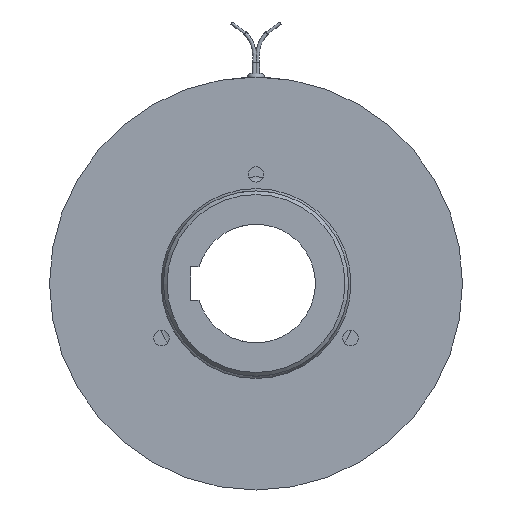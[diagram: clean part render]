
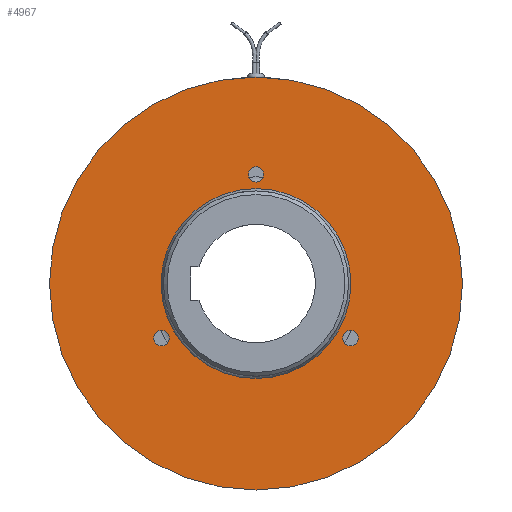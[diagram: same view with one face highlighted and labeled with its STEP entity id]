
A CAD part, left-side view. The second image highlights one B-rep face of the part: STEP entity #4967.
In plain terms, the highlighted planar face has unit normal (-1, 0, 0).
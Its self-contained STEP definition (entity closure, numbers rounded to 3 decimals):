
#72=FACE_BOUND('',#632,.T.);
#73=FACE_BOUND('',#633,.T.);
#74=FACE_BOUND('',#634,.T.);
#75=FACE_BOUND('',#635,.T.);
#170=PLANE('',#5530);
#369=FACE_OUTER_BOUND('',#631,.T.);
#631=EDGE_LOOP('',(#3648,#3649,#3650));
#632=EDGE_LOOP('',(#3651));
#633=EDGE_LOOP('',(#3652));
#634=EDGE_LOOP('',(#3653));
#635=EDGE_LOOP('',(#3654,#3655));
#858=CIRCLE('',#5157,87.);
#859=CIRCLE('',#5158,87.);
#1129=CIRCLE('',#5531,87.);
#1130=CIRCLE('',#5532,3.25);
#1131=CIRCLE('',#5533,3.25);
#1132=CIRCLE('',#5534,3.25);
#1133=CIRCLE('',#5535,40.);
#1134=CIRCLE('',#5536,40.);
#1774=VERTEX_POINT('',#7784);
#1775=VERTEX_POINT('',#7786);
#1776=VERTEX_POINT('',#7788);
#2022=VERTEX_POINT('',#8535);
#2023=VERTEX_POINT('',#8537);
#2024=VERTEX_POINT('',#8539);
#2025=VERTEX_POINT('',#8541);
#2026=VERTEX_POINT('',#8542);
#2293=EDGE_CURVE('',#1775,#1774,#858,.T.);
#2294=EDGE_CURVE('',#1776,#1775,#859,.T.);
#2657=EDGE_CURVE('',#1774,#1776,#1129,.T.);
#2658=EDGE_CURVE('',#2022,#2022,#1130,.T.);
#2659=EDGE_CURVE('',#2023,#2023,#1131,.T.);
#2660=EDGE_CURVE('',#2024,#2024,#1132,.T.);
#2661=EDGE_CURVE('',#2025,#2026,#1133,.T.);
#2662=EDGE_CURVE('',#2026,#2025,#1134,.T.);
#3648=ORIENTED_EDGE('',*,*,#2293,.T.);
#3649=ORIENTED_EDGE('',*,*,#2657,.T.);
#3650=ORIENTED_EDGE('',*,*,#2294,.T.);
#3651=ORIENTED_EDGE('',*,*,#2658,.T.);
#3652=ORIENTED_EDGE('',*,*,#2659,.T.);
#3653=ORIENTED_EDGE('',*,*,#2660,.T.);
#3654=ORIENTED_EDGE('',*,*,#2661,.F.);
#3655=ORIENTED_EDGE('',*,*,#2662,.F.);
#4967=ADVANCED_FACE('',(#369,#72,#73,#74,#75),#170,.T.);
#5157=AXIS2_PLACEMENT_3D('',#7787,#5939,#5940);
#5158=AXIS2_PLACEMENT_3D('',#7789,#5941,#5942);
#5530=AXIS2_PLACEMENT_3D('',#8533,#6776,#6777);
#5531=AXIS2_PLACEMENT_3D('',#8534,#6778,#6779);
#5532=AXIS2_PLACEMENT_3D('',#8536,#6780,#6781);
#5533=AXIS2_PLACEMENT_3D('',#8538,#6782,#6783);
#5534=AXIS2_PLACEMENT_3D('',#8540,#6784,#6785);
#5535=AXIS2_PLACEMENT_3D('',#8543,#6786,#6787);
#5536=AXIS2_PLACEMENT_3D('',#8544,#6788,#6789);
#5939=DIRECTION('center_axis',(-1.,0.,0.));
#5940=DIRECTION('ref_axis',(0.,1.,0.));
#5941=DIRECTION('center_axis',(-1.,0.,0.));
#5942=DIRECTION('ref_axis',(0.,1.,0.));
#6776=DIRECTION('center_axis',(-1.,0.,0.));
#6777=DIRECTION('ref_axis',(0.,0.,1.));
#6778=DIRECTION('center_axis',(-1.,0.,0.));
#6779=DIRECTION('ref_axis',(0.,1.,0.));
#6780=DIRECTION('center_axis',(1.,0.,0.));
#6781=DIRECTION('ref_axis',(0.,0.,
-1.));
#6782=DIRECTION('center_axis',(1.,0.,0.));
#6783=DIRECTION('ref_axis',(0.,0.,
-1.));
#6784=DIRECTION('center_axis',(1.,0.,0.));
#6785=DIRECTION('ref_axis',(0.,0.,
-1.));
#6786=DIRECTION('center_axis',(-1.,0.,0.));
#6787=DIRECTION('ref_axis',(0.,1.,0.));
#6788=DIRECTION('center_axis',(-1.,0.,0.));
#6789=DIRECTION('ref_axis',(0.,1.,0.));
#7784=CARTESIAN_POINT('',(-25.05,-87.018,0.));
#7786=CARTESIAN_POINT('',(-25.05,86.982,0.));
#7787=CARTESIAN_POINT('Origin',(-25.05,-0.018,0.));
#7788=CARTESIAN_POINT('',(-25.05,-0.018,87.));
#7789=CARTESIAN_POINT('Origin',(-25.05,-0.018,0.));
#8533=CARTESIAN_POINT('Origin',(-25.05,63.482,0.));
#8534=CARTESIAN_POINT('Origin',(-25.05,-0.018,0.));
#8535=CARTESIAN_POINT('',(-25.05,-39.855,-19.75));
#8536=CARTESIAN_POINT('Origin',(-25.05,-39.855,-23.));
#8537=CARTESIAN_POINT('',(-25.05,-0.018,49.25));
#8538=CARTESIAN_POINT('Origin',(-25.05,-0.018,46.));
#8539=CARTESIAN_POINT('',(-25.05,39.819,-19.75));
#8540=CARTESIAN_POINT('Origin',(-25.05,39.819,-23.));
#8541=CARTESIAN_POINT('',(-25.05,39.982,0.));
#8542=CARTESIAN_POINT('',(-25.05,-40.018,0.));
#8543=CARTESIAN_POINT('Origin',(-25.05,-0.018,0.));
#8544=CARTESIAN_POINT('Origin',(-25.05,-0.018,0.));
